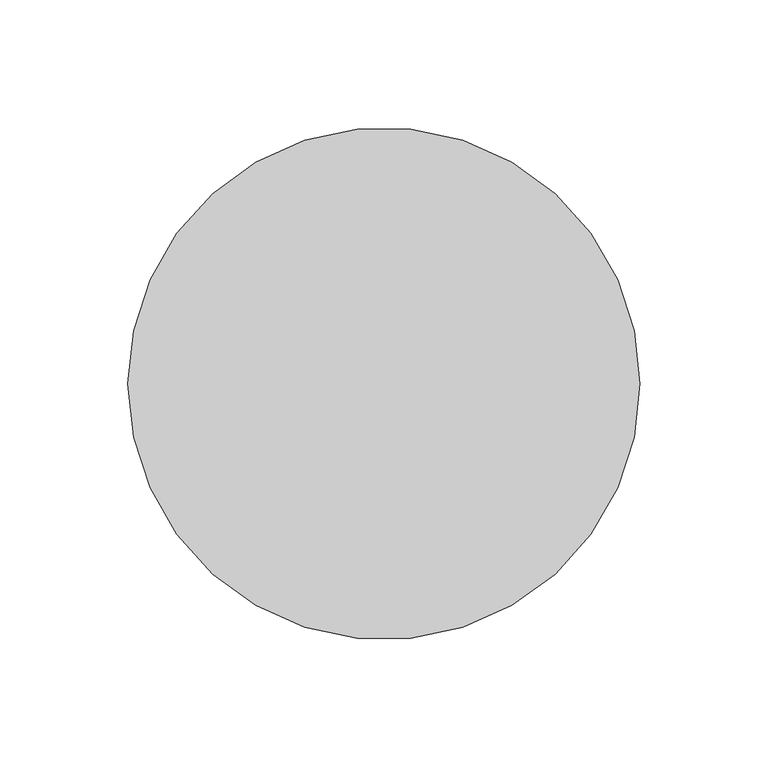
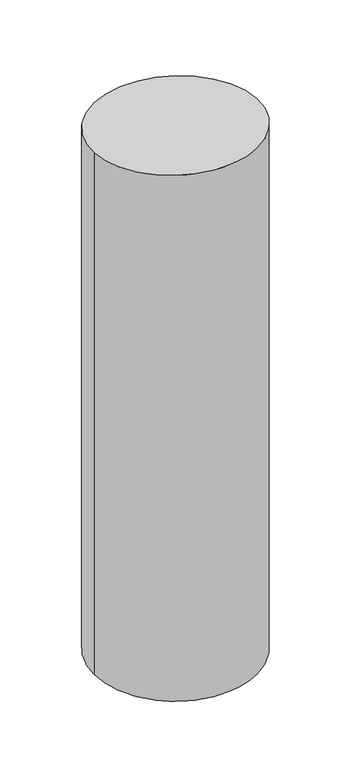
"""IFC4 building model written with IfcOpenShell, lengths in millimetres: member geometry, 矩形竖梃 : 圆瓦."""

from ifc_helpers import new_model, si_unit, frame, origin, origin_with_axes, place, context, project, spatial, circle_curve, ellipse_curve, source, transform, mapped, element, save
from ifc_brep_helpers import plane_surface, cylinder_surface, advanced_brep


def member_f9a0b85f(model_context):
    return source(origin(), model_context, "Body", "AdvancedBrep", [
        advanced_brep(
        [(100.0, 0.0, -676.6972491), (-100.0, 0.0, -676.6972491), (-100.0, 0.0, 0.0), (100.0, 0.0, 0.0)],
        [
            (0, 1, circle_curve(frame((0.0, 0.0, -676.6972491), z_axis=(0.0, 0.0, -1.0), x_axis=(1.0, 0.0, 0.0)), 100.0)),
            (1, 0, circle_curve(frame((0.0, 0.0, -676.6972491), z_axis=(0.0, 0.0, -1.0), x_axis=(1.0, 0.0, 0.0)), 100.0)),
            (2, 3, ellipse_curve(frame((0.0, 0.0, 0.0), z_axis=(0.0, -0.06281655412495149, -0.9980250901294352), x_axis=(0.0, -0.9980250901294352, 0.06281655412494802)), 100.1978818, 100.0)),
            (3, 0),
            (1, 2),
            (3, 2, ellipse_curve(frame((0.0, 0.0, 0.0), z_axis=(0.0, -0.06281655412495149, -0.9980250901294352), x_axis=(0.0, -0.9980250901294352, 0.06281655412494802)), 100.1978818, 100.0)),
        ],
        [
            plane_surface(frame((0.0, -100.0, -676.6972491), z_axis=(0.0, 0.0, -1.0), x_axis=(-1.0, 0.0, 0.0))),
            cylinder_surface(origin_with_axes(), 100.0),
            plane_surface(frame((-304.8, 0.0, 0.0), z_axis=(0.0, 0.06281655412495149, 0.9980250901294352), x_axis=(0.0, 0.9980250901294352, -0.06281655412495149))),
        ],
        [
            (0, [[1, 2]]),
            (1, [[3, 4, -2, 5]]),
            (1, [[6, -5, -1, -4]]),
            (2, [[-3, -6]]),
        ],
    ),
    ])


if __name__ == "__main__":
    model = new_model("IFC4")
    model_context = context("Model", 3, world=origin())
    ifc_project = project(units=[si_unit("LENGTHUNIT", "METRE", prefix="MILLI")], contexts=[model_context])
    site = spatial("IfcSite", under=ifc_project)
    building = spatial("IfcBuilding", under=site)
    placement = place(None, origin())
    member_shape = member_f9a0b85f(model_context)
    element("IfcMember", 1, ObjectType="矩形竖梃 : 圆瓦", at=placement, inside=building, context=model_context, shape_type="MappedRepresentation", body=[
        mapped(member_shape, transform((0.0, 0.0, 0.0), x_axis=(1.0, 0.0, 0.0), y_axis=(0.0, 1.0, 0.0), z_axis=(0.0, 0.0, 1.0))),
    ])
    save(model, "model.ifc")
